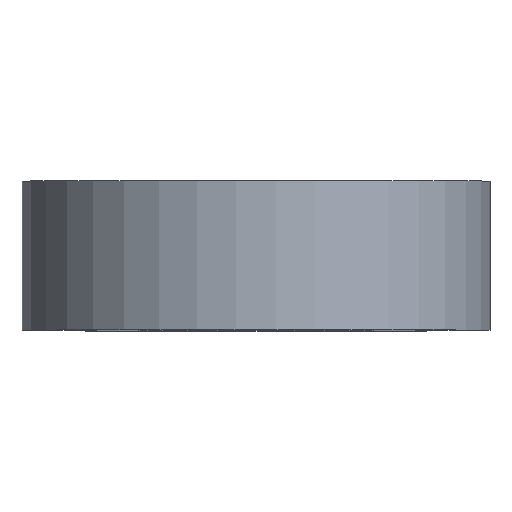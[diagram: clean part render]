
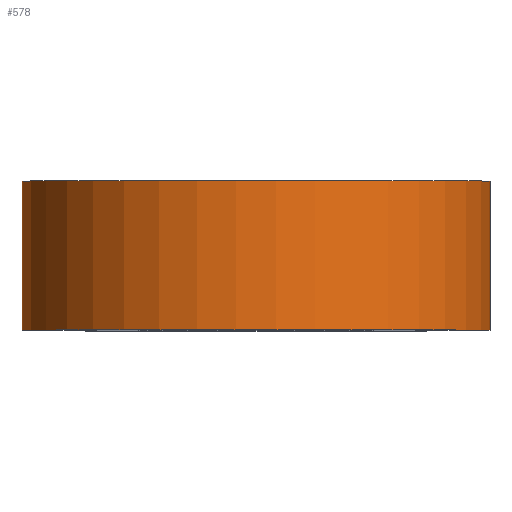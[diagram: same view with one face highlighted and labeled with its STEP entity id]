
A CAD part, top view. The second image highlights one B-rep face of the part: STEP entity #578.
In plain terms, the highlighted cylindrical face has radius 2.2 mm (diameter 4.4 mm), a partial arc.
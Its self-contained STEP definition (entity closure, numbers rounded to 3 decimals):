
#50 = PLANE('',#51);
#51 = AXIS2_PLACEMENT_3D('',#52,#53,#54);
#52 = CARTESIAN_POINT('',(-20.7,6.1,-8.2));
#53 = DIRECTION('',(0.,1.,0.));
#54 = DIRECTION('',(0.,-0.,1.));
#159 = VERTEX_POINT('',#160);
#160 = CARTESIAN_POINT('',(-20.7,6.1,-5.086));
#174 = PLANE('',#175);
#175 = AXIS2_PLACEMENT_3D('',#176,#177,#178);
#176 = CARTESIAN_POINT('',(-20.7,6.1,-8.2));
#177 = DIRECTION('',(1.,0.,0.));
#178 = DIRECTION('',(0.,0.,1.));
#186 = EDGE_CURVE('',#187,#159,#189,.T.);
#187 = VERTEX_POINT('',#188);
#188 = CARTESIAN_POINT('',(-19.3,6.1,-5.086));
#189 = SURFACE_CURVE('',#190,(#195,#206),.PCURVE_S1.);
#190 = CIRCLE('',#191,2.2);
#191 = AXIS2_PLACEMENT_3D('',#192,#193,#194);
#192 = CARTESIAN_POINT('',(-20.,6.1,-3.));
#193 = DIRECTION('',(0.,-1.,0.));
#194 = DIRECTION('',(0.318,0.,-0.948));
#195 = PCURVE('',#50,#196);
#196 = DEFINITIONAL_REPRESENTATION('',(#197),#205);
#197 = ( BOUNDED_CURVE() B_SPLINE_CURVE(2,(#198,#199,#200,#201,#202,#203
,#204),.UNSPECIFIED.,.T.,.F.) B_SPLINE_CURVE_WITH_KNOTS((1,2,2,2,2,1),(
    -2.094,0.,2.094,4.189,6.283,
8.378),.UNSPECIFIED.) CURVE() GEOMETRIC_REPRESENTATION_ITEM() 
RATIONAL_B_SPLINE_CURVE((1.,0.5,1.,0.5,1.,0.5,1.)) REPRESENTATION_ITEM(
  '') );
#198 = CARTESIAN_POINT('',(3.114,1.4));
#199 = CARTESIAN_POINT('',(4.327,5.012));
#200 = CARTESIAN_POINT('',(6.849,2.156));
#201 = CARTESIAN_POINT('',(9.371,-0.7));
#202 = CARTESIAN_POINT('',(5.637,-1.456));
#203 = CARTESIAN_POINT('',(1.902,-2.212));
#204 = CARTESIAN_POINT('',(3.114,1.4));
#205 = ( GEOMETRIC_REPRESENTATION_CONTEXT(2) 
PARAMETRIC_REPRESENTATION_CONTEXT() REPRESENTATION_CONTEXT('2D SPACE',''
  ) );
#206 = PCURVE('',#207,#212);
#207 = CYLINDRICAL_SURFACE('',#208,2.2);
#208 = AXIS2_PLACEMENT_3D('',#209,#210,#211);
#209 = CARTESIAN_POINT('',(-20.,7.5,-3.));
#210 = DIRECTION('',(0.,-1.,0.));
#211 = DIRECTION('',(1.,0.,0.));
#212 = DEFINITIONAL_REPRESENTATION('',(#213),#217);
#213 = LINE('',#214,#215);
#214 = CARTESIAN_POINT('',(-1.247,1.4));
#215 = VECTOR('',#216,1.);
#216 = DIRECTION('',(1.,0.));
#217 = ( GEOMETRIC_REPRESENTATION_CONTEXT(2) 
PARAMETRIC_REPRESENTATION_CONTEXT() REPRESENTATION_CONTEXT('2D SPACE',''
  ) );
#235 = PLANE('',#236);
#236 = AXIS2_PLACEMENT_3D('',#237,#238,#239);
#237 = CARTESIAN_POINT('',(-19.3,6.1,-8.2));
#238 = DIRECTION('',(1.,0.,0.));
#239 = DIRECTION('',(0.,0.,1.));
#351 = PLANE('',#352);
#352 = AXIS2_PLACEMENT_3D('',#353,#354,#355);
#353 = CARTESIAN_POINT('',(-21.6,7.5,-8.9));
#354 = DIRECTION('',(0.,1.,0.));
#355 = DIRECTION('',(0.,-0.,1.));
#488 = VERTEX_POINT('',#489);
#489 = CARTESIAN_POINT('',(-19.3,7.5,-5.086));
#510 = EDGE_CURVE('',#488,#187,#511,.T.);
#511 = SURFACE_CURVE('',#512,(#516,#523),.PCURVE_S1.);
#512 = LINE('',#513,#514);
#513 = CARTESIAN_POINT('',(-19.3,7.5,-5.086));
#514 = VECTOR('',#515,1.);
#515 = DIRECTION('',(0.,-1.,0.));
#516 = PCURVE('',#235,#517);
#517 = DEFINITIONAL_REPRESENTATION('',(#518),#522);
#518 = LINE('',#519,#520);
#519 = CARTESIAN_POINT('',(3.114,-1.4));
#520 = VECTOR('',#521,1.);
#521 = DIRECTION('',(0.,1.));
#522 = ( GEOMETRIC_REPRESENTATION_CONTEXT(2) 
PARAMETRIC_REPRESENTATION_CONTEXT() REPRESENTATION_CONTEXT('2D SPACE',''
  ) );
#523 = PCURVE('',#207,#524);
#524 = DEFINITIONAL_REPRESENTATION('',(#525),#528);
#525 = B_SPLINE_CURVE_WITH_KNOTS('',1,(#526,#527),.UNSPECIFIED.,.F.,.F.,
  (2,2),(0.,1.4),.PIECEWISE_BEZIER_KNOTS.);
#526 = CARTESIAN_POINT('',(-1.247,0.));
#527 = CARTESIAN_POINT('',(-1.247,1.4));
#528 = ( GEOMETRIC_REPRESENTATION_CONTEXT(2) 
PARAMETRIC_REPRESENTATION_CONTEXT() REPRESENTATION_CONTEXT('2D SPACE',''
  ) );
#578 = ADVANCED_FACE('',(#579),#207,.T.);
#579 = FACE_BOUND('',#580,.T.);
#580 = EDGE_LOOP('',(#581,#582,#583,#611));
#581 = ORIENTED_EDGE('',*,*,#186,.F.);
#582 = ORIENTED_EDGE('',*,*,#510,.F.);
#583 = ORIENTED_EDGE('',*,*,#584,.T.);
#584 = EDGE_CURVE('',#488,#585,#587,.T.);
#585 = VERTEX_POINT('',#586);
#586 = CARTESIAN_POINT('',(-20.7,7.5,-5.086));
#587 = SURFACE_CURVE('',#588,(#593,#600),.PCURVE_S1.);
#588 = CIRCLE('',#589,2.2);
#589 = AXIS2_PLACEMENT_3D('',#590,#591,#592);
#590 = CARTESIAN_POINT('',(-20.,7.5,-3.));
#591 = DIRECTION('',(0.,-1.,0.));
#592 = DIRECTION('',(0.318,0.,-0.948));
#593 = PCURVE('',#207,#594);
#594 = DEFINITIONAL_REPRESENTATION('',(#595),#599);
#595 = LINE('',#596,#597);
#596 = CARTESIAN_POINT('',(-1.247,0.));
#597 = VECTOR('',#598,1.);
#598 = DIRECTION('',(1.,0.));
#599 = ( GEOMETRIC_REPRESENTATION_CONTEXT(2) 
PARAMETRIC_REPRESENTATION_CONTEXT() REPRESENTATION_CONTEXT('2D SPACE',''
  ) );
#600 = PCURVE('',#351,#601);
#601 = DEFINITIONAL_REPRESENTATION('',(#602),#610);
#602 = ( BOUNDED_CURVE() B_SPLINE_CURVE(2,(#603,#604,#605,#606,#607,#608
,#609),.UNSPECIFIED.,.T.,.F.) B_SPLINE_CURVE_WITH_KNOTS((1,2,2,2,2,1),(
    -2.094,0.,2.094,4.189,6.283,
8.378),.UNSPECIFIED.) CURVE() GEOMETRIC_REPRESENTATION_ITEM() 
RATIONAL_B_SPLINE_CURVE((1.,0.5,1.,0.5,1.,0.5,1.)) REPRESENTATION_ITEM(
  '') );
#603 = CARTESIAN_POINT('',(3.814,2.3));
#604 = CARTESIAN_POINT('',(5.027,5.912));
#605 = CARTESIAN_POINT('',(7.549,3.056));
#606 = CARTESIAN_POINT('',(10.071,0.2));
#607 = CARTESIAN_POINT('',(6.337,-0.556));
#608 = CARTESIAN_POINT('',(2.602,-1.312));
#609 = CARTESIAN_POINT('',(3.814,2.3));
#610 = ( GEOMETRIC_REPRESENTATION_CONTEXT(2) 
PARAMETRIC_REPRESENTATION_CONTEXT() REPRESENTATION_CONTEXT('2D SPACE',''
  ) );
#611 = ORIENTED_EDGE('',*,*,#612,.T.);
#612 = EDGE_CURVE('',#585,#159,#613,.T.);
#613 = SURFACE_CURVE('',#614,(#618,#624),.PCURVE_S1.);
#614 = LINE('',#615,#616);
#615 = CARTESIAN_POINT('',(-20.7,7.5,-5.086));
#616 = VECTOR('',#617,1.);
#617 = DIRECTION('',(0.,-1.,0.));
#618 = PCURVE('',#207,#619);
#619 = DEFINITIONAL_REPRESENTATION('',(#620),#623);
#620 = B_SPLINE_CURVE_WITH_KNOTS('',1,(#621,#622),.UNSPECIFIED.,.F.,.F.,
  (2,2),(0.,1.4),.PIECEWISE_BEZIER_KNOTS.);
#621 = CARTESIAN_POINT('',(4.389,0.));
#622 = CARTESIAN_POINT('',(4.389,1.4));
#623 = ( GEOMETRIC_REPRESENTATION_CONTEXT(2) 
PARAMETRIC_REPRESENTATION_CONTEXT() REPRESENTATION_CONTEXT('2D SPACE',''
  ) );
#624 = PCURVE('',#174,#625);
#625 = DEFINITIONAL_REPRESENTATION('',(#626),#630);
#626 = LINE('',#627,#628);
#627 = CARTESIAN_POINT('',(3.114,-1.4));
#628 = VECTOR('',#629,1.);
#629 = DIRECTION('',(0.,1.));
#630 = ( GEOMETRIC_REPRESENTATION_CONTEXT(2) 
PARAMETRIC_REPRESENTATION_CONTEXT() REPRESENTATION_CONTEXT('2D SPACE',''
  ) );
